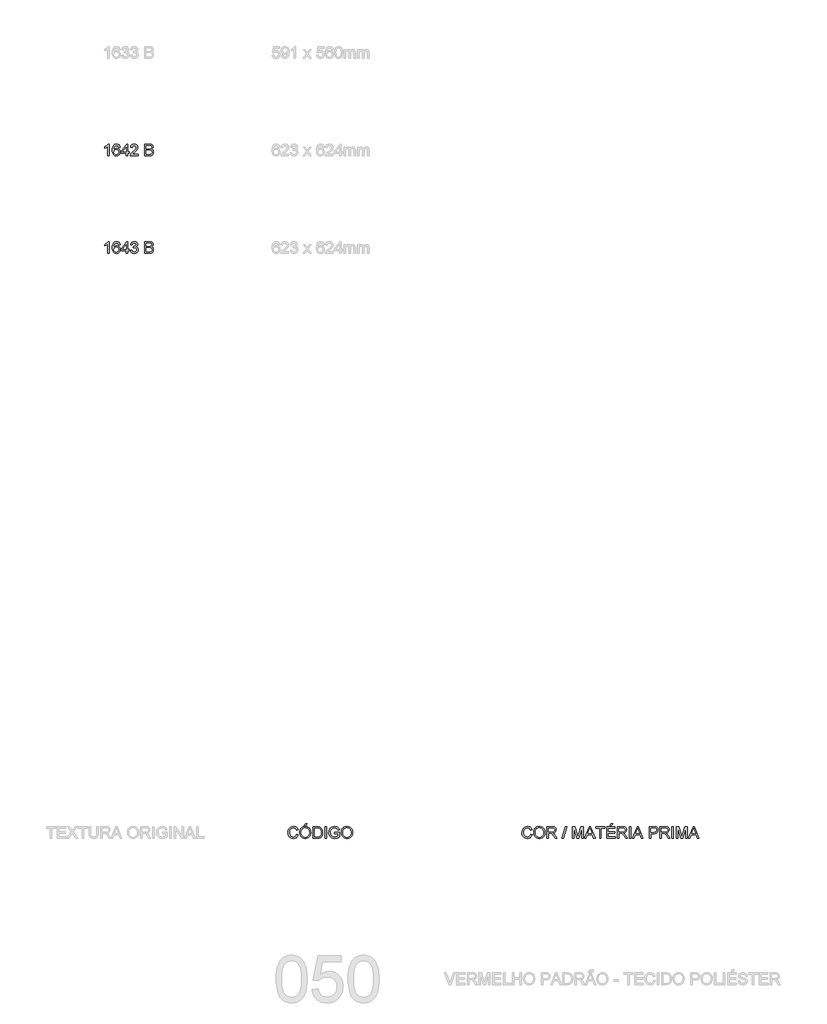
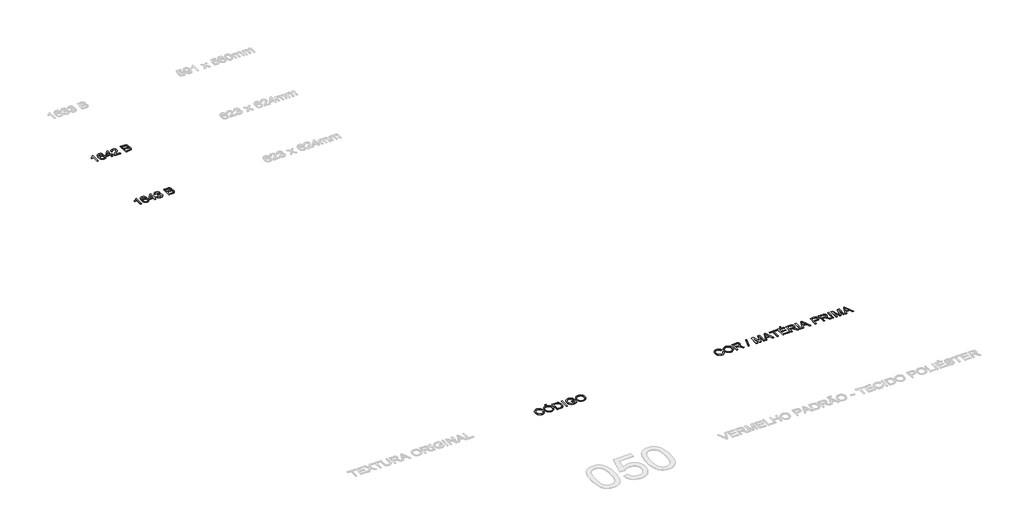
# One storey, part 26 of 39: 4 proxies.
"""IFC4 building model written with IfcOpenShell, lengths in millimetres."""

from ifc_helpers import new_model, si_unit, origin, origin_with_axes, place, context, project, spatial, polyline, outline, extrude, element, save

model = new_model("IFC4")

# Units and contexts
model_context = context("Model", 3, world=origin())
ifc_project = project(units=[si_unit("LENGTHUNIT", "METRE", prefix="MILLI")], contexts=[model_context])

# Site, building, storey
site = spatial("IfcSite", under=ifc_project)
building = spatial("IfcBuilding", under=site)
storey = spatial("IfcBuildingStorey", under=building, Name="Marelli - Linha PROFIT - Planta Baixa", Elevation=0.0)

# Proxies
placement = place(None, origin())
element("IfcBuildingElementProxy", 1, Name="300mm Arial", ObjectType="300mm Arial", at=placement, inside=storey, context=model_context, shape_type="SweptSolid", body=[
    extrude(outline(polyline([(-29517.1779543, -13280.5663201), (-29554.8490706, -13280.5663201), (-29554.8490706, -13045.7104543), (-29590.5336241, -13071.1311002), (-29630.1913032, -13090.1505994), (-29630.1913032, -13054.5396222), (-29600.6043938, -13038.4447849), (-29574.9722158, -13019.2965271), (-29554.7662972, -12998.9342587), (-29541.458166, -12979.1973896), (-29517.1779543, -12979.1973896), (-29517.1779543, -13280.5663201)])), origin_with_axes(), (0.0, 0.0, 1.0), 10.0),
    extrude(outline(polyline([(-29234.644582, -13059.2485118), (-29272.3156983, -13063.9574013), (-29278.3857512, -13045.2873901), (-29286.5895197, -13032.5402789), (-29303.6776384, -13020.7864492), (-29324.3342124, -13016.8685059), (-29341.8453954, -13019.1493743), (-29358.3265088, -13025.9919794), (-29372.4807686, -13040.4037566), (-29384.0414603, -13060.2417932), (-29391.8497556, -13088.3019923), (-29394.7468263, -13127.3802573), (-29379.6360734, -13109.7495127), (-29361.5270821, -13097.3242983), (-29341.4315282, -13089.9574613), (-29320.3610869, -13087.501849), (-29302.2612927, -13089.1803106), (-29285.5594501, -13094.2156954), (-29270.2555591, -13102.6080034), (-29256.3496197, -13114.3572346), (-29244.7935266, -13128.7644133), (-29236.5391743, -13145.1305635), (-29231.5865629, -13163.4556854), (-29229.9356925, -13183.7397789), (-29233.0442953, -13210.7147262), (-29242.3701039, -13235.7215049), (-29257.140566, -13256.9299019), (-29276.5831295, -13272.5097044), (-29299.8148775, -13282.0838333), (-29325.9528932, -13285.2752096), (-29348.4097898, -13283.1598881), (-29368.691584, -13276.8139237), (-29386.798276, -13266.2373164), (-29402.7298656, -13251.4300661), (-29415.7183993, -13231.7667734), (-29424.9959234, -13206.622039), (-29430.5624378, -13175.9958629), (-29432.4179426, -13139.8882451), (-29430.3578034, -13099.4074301), (-29424.1773859, -13064.8587122), (-29413.8766901, -13036.2420915), (-29399.4557159, -13013.557568), (-29383.8253296, -12998.5249899), (-29365.7025428, -12987.7874342), (-29345.0873555, -12981.3449008), (-29321.9797677, -12979.1973896), (-29288.9255704, -12984.5132844), (-29262.4564608, -13000.4609689), (-29243.9152083, -13025.7896443), (-29234.644582, -13059.2485118)]), holes=[polyline([(-29394.7468263, -13183.1511677), (-29392.5671255, -13199.8438133), (-29386.028023, -13215.7823007), (-29375.87448, -13229.485905), (-29362.8514573, -13239.4739012), (-29347.1336991, -13245.5715453), (-29328.8959492, -13247.6040933), (-29304.0363234, -13243.3918445), (-29284.4925924, -13230.7550979), (-29271.8282547, -13210.8894702), (-29267.6068088, -13184.9905777), (-29271.7730724, -13160.1309519), (-29284.2718632, -13141.1758321), (-29304.146688, -13129.173682), (-29330.4410536, -13125.1729653), (-29355.2638912, -13129.173682), (-29376.0216328, -13141.1758321), (-29390.0655279, -13159.6710994), (-29394.7468263, -13183.1511677)])]), origin_with_axes(), (0.0, 0.0, 1.0), 10.0),
    extrude(outline(polyline([(-29074.5423377, -13280.5663201), (-29074.5423377, -13209.932977), (-29211.1001343, -13209.932977), (-29211.1001343, -13172.2618607), (-29065.1245586, -12983.9062792), (-29036.8712214, -12983.9062792), (-29036.8712214, -13172.2618607), (-28999.2001051, -13172.2618607), (-28999.2001051, -13209.932977), (-29036.8712214, -13209.932977), (-29036.8712214, -13280.5663201), (-29074.5423377, -13280.5663201)]), holes=[polyline([(-29074.5423377, -13172.2618607), (-29074.5423377, -13055.8639974), (-29164.7470029, -13172.2618607), (-29074.5423377, -13172.2618607)])]), origin_with_axes(), (0.0, 0.0, 1.0), 10.0),
    extrude(outline(polyline([(-28773.1734073, -13242.8952038), (-28773.1734073, -13280.5663201), (-28970.9467679, -13280.5663201), (-28966.9000659, -13254.5938512), (-28957.6110455, -13234.2959621), (-28944.0178058, -13214.6050783), (-28924.3545132, -13193.9944896), (-28896.855334, -13170.9374855), (-28856.2043736, -13134.8298677), (-28831.8137973, -13108.1768171), (-28819.6185092, -13086.5453558), (-28815.5534131, -13065.5025057), (-28819.3885829, -13046.6393564), (-28830.8940923, -13030.9583863), (-28848.5800192, -13020.390976), (-28870.9564416, -13016.8685059), (-28894.454904, -13020.3082026), (-28912.711048, -13030.6272925), (-28924.4924689, -13047.0164354), (-28928.566762, -13068.6662908), (-28966.2378783, -13063.9574013), (-28957.1052078, -13027.5186897), (-28948.5588492, -13012.9827524), (-28937.3591417, -13000.9024273), (-28923.7636027, -12991.4064733), (-28908.0297496, -12984.623649), (-28870.1471012, -12979.1973896), (-28849.9572774, -12980.7057058), (-28831.9885412, -12985.2306543), (-28816.2408926, -12992.7722352), (-28802.7143315, -13003.3304485), (-28791.8503163, -13016.1235449), (-28784.0903055, -13030.3697751), (-28779.434299, -13046.0691393), (-28777.8822968, -13063.2216373), (-28779.5561599, -13081.238658), (-28784.5777491, -13098.942979), (-28793.4896904, -13116.9508027), (-28806.8346098, -13135.8783314), (-28828.1073862, -13158.4754829), (-28860.8028985, -13187.4921753), (-28904.1393975, -13223.7285518), (-28921.1355457, -13242.8952038), (-28773.1734073, -13242.8952038)])), origin_with_axes(), (0.0, 0.0, 1.0), 10.0),
    extrude(outline(polyline([(-28603.6533839, -13280.5663201), (-28603.6533839, -12979.1973896), (-28488.6534722, -12979.1973896), (-28457.0248177, -12981.4138786), (-28432.3307387, -12988.0633457), (-28413.4032101, -12999.3113377), (-28399.0742064, -13015.3234015), (-28390.0519004, -13034.1589597), (-28387.0444651, -13053.8774346), (-28389.5736538, -13072.0232141), (-28397.16122, -13089.0837416), (-28409.8623459, -13104.0105535), (-28427.7322138, -13115.7551862), (-28406.385861, -13126.9020107), (-28390.6129205, -13143.8613707), (-28380.8732447, -13165.5112261), (-28377.626686, -13190.7295368), (-28379.8431751, -13211.7447958), (-28386.4926421, -13231.2333445), (-28396.416259, -13247.8064284), (-28408.4551972, -13260.0752929), (-28423.1980682, -13268.9596431), (-28441.233483, -13275.3791839), (-28489.536389, -13280.5663201), (-28603.6533839, -13280.5663201)]), holes=[polyline([(-28565.9822676, -13101.6285176), (-28497.1883345, -13101.6285176), (-28457.0156206, -13098.3911561), (-28442.9533313, -13092.8085468), (-28432.8457735, -13084.4484284), (-28426.7481295, -13073.4395597), (-28424.7155814, -13059.9106994), (-28426.6101737, -13046.7773121), (-28432.2939505, -13035.3361821), (-28441.5093945, -13026.4058467), (-28453.9989882, -13020.8048433), (-28502.4122588, -13016.8685059), (-28565.9822676, -13016.8685059), (-28565.9822676, -13101.6285176)]), polyline([(-28565.9822676, -13242.8952038), (-28488.7270486, -13242.8952038), (-28460.768017, -13241.4236758), (-28437.1132047, -13233.2199073), (-28421.4414317, -13216.4812765), (-28416.8337097, -13204.6538704), (-28415.2978024, -13191.0974188), (-28417.1004241, -13175.3520694), (-28422.5082895, -13161.814012), (-28431.9536597, -13151.2282076), (-28445.8687962, -13144.3396173), (-28465.578074, -13140.5596298), (-28492.4058685, -13139.2996339), (-28565.9822676, -13139.2996339), (-28565.9822676, -13242.8952038)])]), origin_with_axes(), (0.0, 0.0, 1.0), 10.0),
])
element("IfcBuildingElementProxy", 2, Name="300mm Arial", ObjectType="300mm Arial", at=placement, inside=storey, context=model_context, shape_type="SweptSolid", body=[
    extrude(outline(polyline([(-29517.1779543, -15780.5663201), (-29554.8490706, -15780.5663201), (-29554.8490706, -15545.7104543), (-29590.5336241, -15571.1311002), (-29630.1913032, -15590.1505994), (-29630.1913032, -15554.5396222), (-29600.6043938, -15538.4447849), (-29574.9722158, -15519.2965271), (-29554.7662972, -15498.9342587), (-29541.458166, -15479.1973896), (-29517.1779543, -15479.1973896), (-29517.1779543, -15780.5663201)])), origin_with_axes(), (0.0, 0.0, 1.0), 10.0),
    extrude(outline(polyline([(-29234.644582, -15559.2485118), (-29272.3156983, -15563.9574013), (-29278.3857512, -15545.2873901), (-29286.5895197, -15532.5402789), (-29303.6776384, -15520.7864492), (-29324.3342124, -15516.8685059), (-29341.8453954, -15519.1493743), (-29358.3265088, -15525.9919794), (-29372.4807686, -15540.4037566), (-29384.0414603, -15560.2417932), (-29391.8497556, -15588.3019923), (-29394.7468263, -15627.3802573), (-29379.6360734, -15609.7495127), (-29361.5270821, -15597.3242983), (-29341.4315282, -15589.9574613), (-29320.3610869, -15587.501849), (-29302.2612927, -15589.1803106), (-29285.5594501, -15594.2156954), (-29270.2555591, -15602.6080034), (-29256.3496197, -15614.3572346), (-29244.7935266, -15628.7644133), (-29236.5391743, -15645.1305635), (-29231.5865629, -15663.4556854), (-29229.9356925, -15683.7397789), (-29233.0442953, -15710.7147262), (-29242.3701039, -15735.7215049), (-29257.140566, -15756.9299019), (-29276.5831295, -15772.5097044), (-29299.8148775, -15782.0838333), (-29325.9528932, -15785.2752096), (-29348.4097898, -15783.1598881), (-29368.691584, -15776.8139237), (-29386.798276, -15766.2373164), (-29402.7298656, -15751.4300661), (-29415.7183993, -15731.7667734), (-29424.9959234, -15706.622039), (-29430.5624378, -15675.9958629), (-29432.4179426, -15639.8882451), (-29430.3578034, -15599.4074301), (-29424.1773859, -15564.8587122), (-29413.8766901, -15536.2420915), (-29399.4557159, -15513.557568), (-29383.8253296, -15498.5249899), (-29365.7025428, -15487.7874342), (-29345.0873555, -15481.3449008), (-29321.9797677, -15479.1973896), (-29288.9255704, -15484.5132844), (-29262.4564608, -15500.4609689), (-29243.9152083, -15525.7896443), (-29234.644582, -15559.2485118)]), holes=[polyline([(-29394.7468263, -15683.1511677), (-29392.5671255, -15699.8438133), (-29386.028023, -15715.7823007), (-29375.87448, -15729.485905), (-29362.8514573, -15739.4739012), (-29347.1336991, -15745.5715453), (-29328.8959492, -15747.6040933), (-29304.0363234, -15743.3918445), (-29284.4925924, -15730.7550979), (-29271.8282547, -15710.8894702), (-29267.6068088, -15684.9905777), (-29271.7730724, -15660.1309519), (-29284.2718632, -15641.1758321), (-29304.146688, -15629.173682), (-29330.4410536, -15625.1729653), (-29355.2638912, -15629.173682), (-29376.0216328, -15641.1758321), (-29390.0655279, -15659.6710994), (-29394.7468263, -15683.1511677)])]), origin_with_axes(), (0.0, 0.0, 1.0), 10.0),
    extrude(outline(polyline([(-29074.5423377, -15780.5663201), (-29074.5423377, -15709.932977), (-29211.1001343, -15709.932977), (-29211.1001343, -15672.2618607), (-29065.1245586, -15483.9062792), (-29036.8712214, -15483.9062792), (-29036.8712214, -15672.2618607), (-28999.2001051, -15672.2618607), (-28999.2001051, -15709.932977), (-29036.8712214, -15709.932977), (-29036.8712214, -15780.5663201), (-29074.5423377, -15780.5663201)]), holes=[polyline([(-29074.5423377, -15672.2618607), (-29074.5423377, -15555.8639974), (-29164.7470029, -15672.2618607), (-29074.5423377, -15672.2618607)])]), origin_with_axes(), (0.0, 0.0, 1.0), 10.0),
    extrude(outline(polyline([(-28966.2378783, -15700.5151979), (-28928.566762, -15695.8063084), (-28920.1330673, -15719.4795148), (-28907.7814293, -15735.4639875), (-28890.9048428, -15744.5690668), (-28868.8963024, -15747.6040933), (-28843.0709863, -15743.4286327), (-28823.1317822, -15730.9022507), (-28810.3846711, -15712.2138454), (-28806.135634, -15689.5523145), (-28810.3478829, -15668.0404148), (-28822.9846294, -15650.5936112), (-28842.1144932, -15639.0329195), (-28865.8060936, -15635.1793556), (-28892.2200209, -15639.2996339), (-28888.0261662, -15601.6285176), (-28881.9929014, -15602.069976), (-28859.423341, -15599.3660433), (-28839.2450136, -15591.2542454), (-28825.0079804, -15577.5322469), (-28820.2623026, -15557.997713), (-28823.7019993, -15541.7281317), (-28834.0210893, -15528.5303652), (-28849.7664387, -15519.7839707), (-28869.4849136, -15516.8685059), (-28889.2401767, -15519.8115619), (-28905.3901963, -15528.6407298), (-28917.1808143, -15543.3560096), (-28923.8578725, -15563.9574013), (-28961.5289888, -15559.2485118), (-28950.4373466, -15525.4217623), (-28930.7004776, -15500.1666633), (-28903.6979392, -15484.4397081), (-28870.8092888, -15479.1973896), (-28847.1268853, -15481.7817606), (-28825.3758624, -15489.5348737), (-28807.0369449, -15501.76695), (-28793.590858, -15517.7882109), (-28785.3411043, -15536.24669), (-28782.5911863, -15555.790421), (-28785.2031485, -15574.0005798), (-28793.039035, -15590.5184814), (-28805.9884812, -15604.5899677), (-28823.9411226, -15615.4608806), (-28800.3598867, -15624.9890243), (-28782.8854919, -15641.2126203), (-28772.0697613, -15663.2487518), (-28768.4645177, -15690.2145021), (-28770.2671395, -15709.3259717), (-28775.6750048, -15726.9291252), (-28784.6881137, -15743.0239625), (-28797.3064661, -15757.6104836), (-28812.679335, -15769.7138012), (-28829.9559932, -15778.3590281), (-28849.1364407, -15783.5461642), (-28870.2206776, -15785.2752096), (-28889.2769649, -15783.7990831), (-28906.6409951, -15779.3707036), (-28922.3127681, -15771.9900711), (-28936.2922839, -15761.6571855), (-28948.013924, -15748.9790523), (-28956.9120698, -15734.5626766), (-28962.9867212, -15718.4080585), (-28966.2378783, -15700.5151979)])), origin_with_axes(), (0.0, 0.0, 1.0), 10.0),
    extrude(outline(polyline([(-28603.6533839, -15780.5663201), (-28603.6533839, -15479.1973896), (-28488.6534722, -15479.1973896), (-28457.0248177, -15481.4138786), (-28432.3307387, -15488.0633457), (-28413.4032101, -15499.3113377), (-28399.0742064, -15515.3234015), (-28390.0519004, -15534.1589597), (-28387.0444651, -15553.8774346), (-28389.5736538, -15572.0232141), (-28397.16122, -15589.0837416), (-28409.8623459, -15604.0105535), (-28427.7322138, -15615.7551862), (-28406.385861, -15626.9020107), (-28390.6129205, -15643.8613707), (-28380.8732447, -15665.5112261), (-28377.626686, -15690.7295368), (-28379.8431751, -15711.7447958), (-28386.4926421, -15731.2333445), (-28396.416259, -15747.8064284), (-28408.4551972, -15760.0752929), (-28423.1980682, -15768.9596431), (-28441.233483, -15775.3791839), (-28489.536389, -15780.5663201), (-28603.6533839, -15780.5663201)]), holes=[polyline([(-28565.9822676, -15601.6285176), (-28497.1883345, -15601.6285176), (-28457.0156206, -15598.3911561), (-28442.9533313, -15592.8085468), (-28432.8457735, -15584.4484284), (-28426.7481295, -15573.4395597), (-28424.7155814, -15559.9106994), (-28426.6101737, -15546.7773121), (-28432.2939505, -15535.3361821), (-28441.5093945, -15526.4058467), (-28453.9989882, -15520.8048433), (-28502.4122588, -15516.8685059), (-28565.9822676, -15516.8685059), (-28565.9822676, -15601.6285176)]), polyline([(-28565.9822676, -15742.8952038), (-28488.7270486, -15742.8952038), (-28460.768017, -15741.4236758), (-28437.1132047, -15733.2199073), (-28421.4414317, -15716.4812765), (-28416.8337097, -15704.6538704), (-28415.2978024, -15691.0974188), (-28417.1004241, -15675.3520694), (-28422.5082895, -15661.814012), (-28431.9536597, -15651.2282076), (-28445.8687962, -15644.3396173), (-28465.578074, -15640.5596298), (-28492.4058685, -15639.2996339), (-28565.9822676, -15639.2996339), (-28565.9822676, -15742.8952038)])]), origin_with_axes(), (0.0, 0.0, 1.0), 10.0),
])
element("IfcBuildingElementProxy", 3, Name="300mm Arial", ObjectType="300mm Arial", at=placement, inside=storey, context=model_context, shape_type="SweptSolid", body=[
    extrude(outline(polyline([(-24700.8246463, -30673.4390831), (-24663.15353, -30683.1511677), (-24670.6077389, -30706.5783531), (-24680.5359543, -30727.0486868), (-24692.938176, -30744.5621691), (-24707.8144042, -30759.1187997), (-24724.8289465, -30770.5622291), (-24743.6461105, -30778.7361071), (-24764.2658964, -30783.640434), (-24786.688304, -30785.2752096), (-24830.383488, -30780.3271968), (-24865.0839571, -30765.4831583), (-24891.6818254, -30741.2581289), (-24911.0692065, -30708.1671434), (-24922.9058097, -30669.2636224), (-24926.8513441, -30627.6009865), (-24922.3907749, -30583.6574821), (-24909.0090674, -30545.7104543), (-24887.4051972, -30514.9647166), (-24858.2781402, -30492.6250824), (-24823.7340209, -30479.0226457), (-24785.8789636, -30474.4885001), (-24744.5750126, -30480.3562179), (-24726.6062764, -30487.6908652), (-24710.4263664, -30497.9593714), (-24696.301997, -30510.8904235), (-24684.4998828, -30526.2127086), (-24667.8624195, -30564.0309777), (-24705.5335358, -30573.0072984), (-24718.5933467, -30545.5357104), (-24736.4356234, -30526.6909552), (-24759.2810953, -30515.7924511), (-24787.3504916, -30512.1596164), (-24819.705713, -30516.1879242), (-24846.2851872, -30528.2728478), (-24866.4543176, -30547.1451941), (-24879.5785078, -30571.5357704), (-24886.7797978, -30599.1085259), (-24889.1802278, -30627.5274101), (-24886.3383394, -30662.3290468), (-24877.8126742, -30692.421794), (-24863.2813354, -30716.6560205), (-24842.4224262, -30733.8820949), (-24817.4156476, -30744.1735937), (-24790.4407003, -30747.6040933), (-24758.9959868, -30742.931992), (-24732.7935917, -30728.9156879), (-24713.0107374, -30705.702334), (-24700.8246463, -30673.4390831)])), origin_with_axes(), (0.0, 0.0, 1.0), 10.0),
    extrude(outline(polyline([(-24625.4824137, -30633.8549804), (-24622.9716191, -30598.5061192), (-24615.4392352, -30567.213157), (-24602.8852621, -30539.9760937), (-24585.3096998, -30516.7949295), (-24563.7656105, -30498.2858666), (-24539.3060563, -30485.0651074), (-24511.9310374, -30477.1326519), (-24481.6405536, -30474.4885001), (-24442.1116332, -30479.454907), (-24406.666203, -30494.3541278), (-24377.2356433, -30518.1376988), (-24355.7513348, -30549.7571563), (-24342.6179476, -30587.68579), (-24338.2401519, -30630.3968896), (-24342.8478738, -30673.6782064), (-24356.6710398, -30712.140269), (-24378.9462946, -30743.8149087), (-24408.9102831, -30766.733957), (-24444.0522107, -30780.6398965), (-24481.8612828, -30785.2752096), (-24521.9972084, -30780.1524528), (-24557.6449738, -30764.7841825), (-24587.001957, -30740.5591531), (-24608.2655363, -30708.8661192), (-24621.1781943, -30672.3998164), (-24625.4824137, -30633.8549804)]), holes=[polyline([(-24587.8112974, -30634.2228624), (-24585.9282014, -30659.1974513), (-24580.2789135, -30681.3669401), (-24570.8634337, -30700.7313286), (-24557.681762, -30717.2906169), (-24541.6582018, -30730.5527628), (-24523.7170568, -30740.0257242), (-24503.8583268, -30745.709501), (-24482.082012, -30747.6040933), (-24459.9332166, -30745.6911069), (-24439.8399619, -30739.9521478), (-24421.8022478, -30730.3872159), (-24405.8200744, -30716.9963113), (-24392.7349717, -30700.0875351), (-24383.3884697, -30679.9689885), (-24377.7805685, -30656.6406715), (-24375.9112682, -30630.102584), (-24379.1118415, -30596.7540812), (-24388.7135616, -30567.9305269), (-24404.468108, -30544.358488), (-24426.1271605, -30526.7645316), (-24452.2559792, -30515.8108452), (-24481.4198244, -30512.1596164), (-24502.4396819, -30513.9185522), (-24521.9420261, -30519.1953595), (-24539.9268572, -30527.9900385), (-24556.394175, -30540.302589), (-24570.139166, -30556.7262208), (-24579.9570168, -30577.8541437), (-24585.8477272, -30603.6863575), (-24587.8112974, -30634.2228624)])]), origin_with_axes(), (0.0, 0.0, 1.0), 10.0),
    extrude(outline(polyline([(-24507.7601752, -30460.3618315), (-24479.506838, -30403.855157), (-24432.4179426, -30403.855157), (-24479.506838, -30460.3618315), (-24507.7601752, -30460.3618315)])), origin_with_axes(), (0.0, 0.0, 1.0), 10.0),
    extrude(outline(polyline([(-24286.4423669, -30780.5663201), (-24286.4423669, -30479.1973896), (-24182.4789151, -30479.1973896), (-24128.6945674, -30483.5383972), (-24104.6718731, -30491.9077126), (-24084.4015752, -30505.0962821), (-24063.5610602, -30528.0521186), (-24048.7170217, -30556.5997614), (-24039.8326715, -30590.1873876), (-24036.8712214, -30628.2631741), (-24038.8761783, -30660.6091985), (-24044.8910489, -30689.0740679), (-24054.0513106, -30713.3082943), (-24065.4924406, -30732.9623899), (-24078.6626161, -30748.477813), (-24093.0100139, -30760.2960221), (-24109.4819302, -30769.0608107), (-24129.0256612, -30775.4159721), (-24177.47572, -30780.5663201), (-24286.4423669, -30780.5663201)]), holes=[polyline([(-24248.7712506, -30742.8952038), (-24182.1110331, -30742.8952038), (-24154.5382776, -30741.5340404), (-24133.6241861, -30737.4505502), (-24117.8420485, -30730.8838566), (-24105.6651545, -30722.0730828), (-24092.5777525, -30705.7667134), (-24082.7461062, -30684.6594839), (-24076.5932798, -30658.6594239), (-24074.5423377, -30627.6745629), (-24078.5614485, -30586.6189322), (-24090.6187809, -30556.3054558), (-24108.4334665, -30535.4833349), (-24129.724637, -30522.9017706), (-24151.3928865, -30518.3768221), (-24183.1411027, -30516.8685059), (-24248.7712506, -30516.8685059), (-24248.7712506, -30742.8952038)])]), origin_with_axes(), (0.0, 0.0, 1.0), 10.0),
    extrude(outline(polyline([(-23980.3645469, -30780.5663201), (-23980.3645469, -30479.1973896), (-23942.6934306, -30479.1973896), (-23942.6934306, -30780.5663201), (-23980.3645469, -30780.5663201)])), origin_with_axes(), (0.0, 0.0, 1.0), 10.0),
    extrude(outline(polyline([(-23726.0845119, -30662.8440816), (-23726.0845119, -30625.1729653), (-23603.6533839, -30625.1729653), (-23603.6533839, -30737.8184322), (-23633.4058402, -30758.5117945), (-23664.0963957, -30773.355833), (-23695.6514738, -30782.2953654), (-23727.9974983, -30785.2752096), (-23770.2579425, -30780.5387289), (-23808.4532906, -30766.3292869), (-23840.1831127, -30743.1435241), (-23863.0469787, -30711.4780814), (-23876.8701447, -30673.4942654), (-23881.4778666, -30631.3533828), (-23876.8885388, -30588.9089976), (-23863.1205551, -30549.4260625), (-23840.7441327, -30516.3074859), (-23810.3294888, -30492.9561762), (-23773.2837719, -30479.1054191), (-23731.0141306, -30474.4885001), (-23699.9832843, -30477.1648416), (-23672.079435, -30485.1938661), (-23648.5809725, -30497.9961596), (-23630.7662869, -30514.9923077), (-23617.5869145, -30537.0008481), (-23607.9943914, -30564.8403181), (-23642.7224518, -30574.6259792), (-23650.4755648, -30554.7695485), (-23659.9025409, -30539.7875542), (-23672.3737406, -30528.493577), (-23689.2595242, -30519.7011973), (-23709.3918663, -30514.0450116), (-23731.6027418, -30512.1596164), (-23757.6028018, -30514.1921644), (-23779.8320714, -30520.2898085), (-23798.207777, -30529.6891935), (-23812.6471453, -30541.6269642), (-23832.0345265, -30570.6528536), (-23840.8636944, -30599.0901318), (-23843.8067503, -30629.8082784), (-23840.2658861, -30665.8331228), (-23829.6432935, -30695.4752146), (-23812.2608693, -30718.5230216), (-23788.4405101, -30734.7650117), (-23760.5642519, -30744.3943229), (-23731.0141306, -30747.6040933), (-23704.9221001, -30745.1852692), (-23679.4738631, -30737.9287968), (-23657.3733522, -30727.9316036), (-23641.3245002, -30717.2906169), (-23641.3245002, -30662.8440816), (-23726.0845119, -30662.8440816)])), origin_with_axes(), (0.0, 0.0, 1.0), 10.0),
    extrude(outline(polyline([(-23556.5644885, -30633.8549804), (-23554.0536939, -30598.5061192), (-23546.52131, -30567.213157), (-23533.9673369, -30539.9760937), (-23516.3917746, -30516.7949295), (-23494.8476853, -30498.2858666), (-23470.3881311, -30485.0651074), (-23443.0131122, -30477.1326519), (-23412.7226284, -30474.4885001), (-23373.193708, -30479.454907), (-23337.7482778, -30494.3541278), (-23308.3177182, -30518.1376988), (-23286.8334096, -30549.7571563), (-23273.7000224, -30587.68579), (-23269.3222267, -30630.3968896), (-23273.9299487, -30673.6782064), (-23287.7531146, -30712.140269), (-23310.0283694, -30743.8149087), (-23339.9923579, -30766.733957), (-23375.1342855, -30780.6398965), (-23412.9433576, -30785.2752096), (-23453.0792833, -30780.1524528), (-23488.7270486, -30764.7841825), (-23518.0840318, -30740.5591531), (-23539.3476111, -30708.8661192), (-23552.2602692, -30672.3998164), (-23556.5644885, -30633.8549804)]), holes=[polyline([(-23518.8933722, -30634.2228624), (-23517.0102762, -30659.1974513), (-23511.3609883, -30681.3669401), (-23501.9455085, -30700.7313286), (-23488.7638368, -30717.2906169), (-23472.7402766, -30730.5527628), (-23454.7991316, -30740.0257242), (-23434.9404016, -30745.709501), (-23413.1640868, -30747.6040933), (-23391.0152914, -30745.6911069), (-23370.9220367, -30739.9521478), (-23352.8843226, -30730.3872159), (-23336.9021492, -30716.9963113), (-23323.8170465, -30700.0875351), (-23314.4705445, -30679.9689885), (-23308.8626434, -30656.6406715), (-23306.993343, -30630.102584), (-23310.1939163, -30596.7540812), (-23319.7956364, -30567.9305269), (-23335.5501829, -30544.358488), (-23357.2092353, -30526.7645316), (-23383.338054, -30515.8108452), (-23412.5018992, -30512.1596164), (-23433.5217567, -30513.9185522), (-23453.024101, -30519.1953595), (-23471.008932, -30527.9900385), (-23487.4762498, -30540.302589), (-23501.2212409, -30556.7262208), (-23511.0390916, -30577.8541437), (-23516.929802, -30603.6863575), (-23518.8933722, -30634.2228624)])]), origin_with_axes(), (0.0, 0.0, 1.0), 10.0),
])
element("IfcBuildingElementProxy", 4, Name="300mm Arial", ObjectType="300mm Arial", at=placement, inside=storey, context=model_context, shape_type="SweptSolid", body=[
    extrude(outline(polyline([(-18695.8970747, -30673.4390831), (-18658.2259584, -30683.1511677), (-18665.6801673, -30706.5783531), (-18675.6083827, -30727.0486868), (-18688.0106044, -30744.5621691), (-18702.8868326, -30759.1187997), (-18719.9013749, -30770.5622291), (-18738.7185389, -30778.7361071), (-18759.3383248, -30783.640434), (-18781.7607324, -30785.2752096), (-18825.4559164, -30780.3271968), (-18860.1563855, -30765.4831583), (-18886.7542538, -30741.2581289), (-18906.1416349, -30708.1671434), (-18917.9782381, -30669.2636224), (-18921.9237725, -30627.6009865), (-18917.4632033, -30583.6574821), (-18904.0814958, -30545.7104543), (-18882.4776256, -30514.9647166), (-18853.3505686, -30492.6250824), (-18818.8064493, -30479.0226457), (-18780.951392, -30474.4885001), (-18739.647441, -30480.3562179), (-18721.6787048, -30487.6908652), (-18705.4987948, -30497.9593714), (-18691.3744254, -30510.8904235), (-18679.5723112, -30526.2127086), (-18662.9348479, -30564.0309777), (-18700.6059642, -30573.0072984), (-18713.6657751, -30545.5357104), (-18731.5080518, -30526.6909552), (-18754.3535237, -30515.7924511), (-18782.42292, -30512.1596164), (-18814.7781414, -30516.1879242), (-18841.3576156, -30528.2728478), (-18861.526746, -30547.1451941), (-18874.6509362, -30571.5357704), (-18881.8522262, -30599.1085259), (-18884.2526562, -30627.5274101), (-18881.4107678, -30662.3290468), (-18872.8851026, -30692.421794), (-18858.3537638, -30716.6560205), (-18837.4948546, -30733.8820949), (-18812.488076, -30744.1735937), (-18785.5131287, -30747.6040933), (-18754.0684152, -30742.931992), (-18727.8660201, -30728.9156879), (-18708.0831658, -30705.702334), (-18695.8970747, -30673.4390831)])), origin_with_axes(), (0.0, 0.0, 1.0), 10.0),
    extrude(outline(polyline([(-18620.5548421, -30633.8549804), (-18618.0440475, -30598.5061192), (-18610.5116636, -30567.213157), (-18597.9576905, -30539.9760937), (-18580.3821282, -30516.7949295), (-18558.8380389, -30498.2858666), (-18534.3784847, -30485.0651074), (-18507.0034658, -30477.1326519), (-18476.712982, -30474.4885001), (-18437.1840616, -30479.454907), (-18401.7386314, -30494.3541278), (-18372.3080717, -30518.1376988), (-18350.8237632, -30549.7571563), (-18337.690376, -30587.68579), (-18333.3125803, -30630.3968896), (-18337.9203022, -30673.6782064), (-18351.7434682, -30712.140269), (-18374.018723, -30743.8149087), (-18403.9827115, -30766.733957), (-18439.1246391, -30780.6398965), (-18476.9337112, -30785.2752096), (-18517.0696368, -30780.1524528), (-18552.7174022, -30764.7841825), (-18582.0743854, -30740.5591531), (-18603.3379647, -30708.8661192), (-18616.2506227, -30672.3998164), (-18620.5548421, -30633.8549804)]), holes=[polyline([(-18582.8837258, -30634.2228624), (-18581.0006298, -30659.1974513), (-18575.3513419, -30681.3669401), (-18565.9358621, -30700.7313286), (-18552.7541904, -30717.2906169), (-18536.7306302, -30730.5527628), (-18518.7894852, -30740.0257242), (-18498.9307552, -30745.709501), (-18477.1544404, -30747.6040933), (-18455.005645, -30745.6911069), (-18434.9123903, -30739.9521478), (-18416.8746762, -30730.3872159), (-18400.8925028, -30716.9963113), (-18387.8074001, -30700.0875351), (-18378.4608981, -30679.9689885), (-18372.8529969, -30656.6406715), (-18370.9836966, -30630.102584), (-18374.1842699, -30596.7540812), (-18383.78599, -30567.9305269), (-18399.5405364, -30544.358488), (-18421.1995889, -30526.7645316), (-18447.3284076, -30515.8108452), (-18476.4922528, -30512.1596164), (-18497.5121103, -30513.9185522), (-18517.0144545, -30519.1953595), (-18534.9992856, -30527.9900385), (-18551.4666034, -30540.302589), (-18565.2115944, -30556.7262208), (-18575.0294452, -30577.8541437), (-18580.9201556, -30603.6863575), (-18582.8837258, -30634.2228624)])]), origin_with_axes(), (0.0, 0.0, 1.0), 10.0),
    extrude(outline(polyline([(-18281.5147953, -30780.5663201), (-18281.5147953, -30479.1973896), (-18151.652451, -30479.1973896), (-18116.7496467, -30481.2299376), (-18091.356592, -30487.3275817), (-18072.7969454, -30498.5847708), (-18058.3943653, -30516.0959537), (-18049.1513301, -30537.8101885), (-18046.0703184, -30561.6765329), (-18051.1746811, -30591.3646099), (-18066.4877692, -30615.9759154), (-18078.0875483, -30626.0052983), (-18092.4694351, -30634.0205273), (-18129.5795313, -30644.0085235), (-18108.1687992, -30660.1217548), (-18077.6345936, -30698.8965171), (-18027.3819131, -30780.5663201), (-18071.1598705, -30780.5663201), (-18110.3760912, -30718.0999573), (-18138.7030048, -30676.750021), (-18158.6054207, -30657.2154871), (-18176.5212739, -30650.0417882), (-18198.3734644, -30648.717413), (-18243.843679, -30648.717413), (-18243.843679, -30780.5663201), (-18281.5147953, -30780.5663201)]), holes=[polyline([(-18243.843679, -30611.0462967), (-18159.5251257, -30611.0462967), (-18135.3092934, -30609.7127245), (-18116.5197205, -30605.7120078), (-18102.3746578, -30598.7774322), (-18092.092356, -30588.6422832), (-18085.829165, -30576.3826157), (-18083.7414347, -30563.0744845), (-18087.7237573, -30544.6987789), (-18099.6707251, -30529.8915286), (-18120.2261316, -30520.1242616), (-18150.0337703, -30516.8685059), (-18243.843679, -30516.8685059), (-18243.843679, -30611.0462967)])]), origin_with_axes(), (0.0, 0.0, 1.0), 10.0),
    extrude(outline(polyline([(-17895.3858532, -30780.5663201), (-17810.6258415, -30479.1973896), (-17776.6335452, -30479.1973896), (-17861.3935568, -30780.5663201), (-17895.3858532, -30780.5663201)])), origin_with_axes(), (0.0, 0.0, 1.0), 10.0),
    extrude(outline(polyline([(-17626.9791495, -30780.5663201), (-17626.9791495, -30479.1973896), (-17562.158342, -30479.1973896), (-17500.5013196, -30691.6124536), (-17488.0669081, -30735.9790223), (-17474.6024271, -30687.9336337), (-17413.9754743, -30479.1973896), (-17349.1546668, -30479.1973896), (-17349.1546668, -30780.5663201), (-17386.8257831, -30780.5663201), (-17386.8257831, -30516.8685059), (-17462.5358977, -30780.5663201), (-17513.5979186, -30780.5663201), (-17589.3080332, -30516.8685059), (-17589.3080332, -30780.5663201), (-17626.9791495, -30780.5663201)])), origin_with_axes(), (0.0, 0.0, 1.0), 10.0),
    extrude(outline(polyline([(-17318.3261556, -30780.5663201), (-17198.0287431, -30479.1973896), (-17165.9494332, -30479.1973896), (-17045.6520207, -30780.5663201), (-17085.4568526, -30780.5663201), (-17119.9641838, -30686.3885293), (-17244.0875689, -30686.3885293), (-17278.5213237, -30780.5663201), (-17318.3261556, -30780.5663201)]), holes=[polyline([(-17230.2552059, -30648.717413), (-17133.7229704, -30648.717413), (-17160.8726616, -30574.6259792), (-17181.9890881, -30516.8685059), (-17200.7510699, -30568.1512561), (-17230.2552059, -30648.717413)])]), origin_with_axes(), (0.0, 0.0, 1.0), 10.0),
    extrude(outline(polyline([(-16930.0634979, -30780.5663201), (-16930.0634979, -30516.8685059), (-17028.9501782, -30516.8685059), (-17028.9501782, -30479.1973896), (-16793.5057012, -30479.1973896), (-16793.5057012, -30516.8685059), (-16892.3923815, -30516.8685059), (-16892.3923815, -30780.5663201), (-16930.0634979, -30780.5663201)])), origin_with_axes(), (0.0, 0.0, 1.0), 10.0),
    extrude(outline(polyline([(-16751.1256954, -30780.5663201), (-16751.1256954, -30479.1973896), (-16534.5167766, -30479.1973896), (-16534.5167766, -30516.8685059), (-16713.4545791, -30516.8685059), (-16713.4545791, -30606.3374072), (-16543.9345557, -30606.3374072), (-16543.9345557, -30644.0085235), (-16713.4545791, -30644.0085235), (-16713.4545791, -30742.8952038), (-16529.8078871, -30742.8952038), (-16529.8078871, -30780.5663201), (-16751.1256954, -30780.5663201)])), origin_with_axes(), (0.0, 0.0, 1.0), 10.0),
    extrude(outline(polyline([(-16666.3656837, -30460.3618315), (-16638.1123465, -30403.855157), (-16591.0234511, -30403.855157), (-16638.1123465, -30460.3618315), (-16666.3656837, -30460.3618315)])), origin_with_axes(), (0.0, 0.0, 1.0), 10.0),
    extrude(outline(polyline([(-16473.3012126, -30780.5663201), (-16473.3012126, -30479.1973896), (-16343.4388683, -30479.1973896), (-16308.536064, -30481.2299376), (-16283.1430093, -30487.3275817), (-16264.5833627, -30498.5847708), (-16250.1807826, -30516.0959537), (-16240.9377474, -30537.8101885), (-16237.8567357, -30561.6765329), (-16242.9610984, -30591.3646099), (-16258.2741865, -30615.9759154), (-16269.8739656, -30626.0052983), (-16284.2558524, -30634.0205273), (-16321.3659486, -30644.0085235), (-16299.9552165, -30660.1217548), (-16269.4210109, -30698.8965171), (-16219.1683304, -30780.5663201), (-16262.9462878, -30780.5663201), (-16302.1625085, -30718.0999573), (-16330.4894221, -30676.750021), (-16350.3918381, -30657.2154871), (-16368.3076912, -30650.0417882), (-16390.1598817, -30648.717413), (-16435.6300963, -30648.717413), (-16435.6300963, -30780.5663201), (-16473.3012126, -30780.5663201)]), holes=[polyline([(-16435.6300963, -30611.0462967), (-16351.311543, -30611.0462967), (-16327.0957107, -30609.7127245), (-16308.3061378, -30605.7120078), (-16294.1610751, -30598.7774322), (-16283.8787733, -30588.6422832), (-16277.6155824, -30576.3826157), (-16275.527852, -30563.0744845), (-16279.5101746, -30544.6987789), (-16291.4571424, -30529.8915286), (-16312.0125489, -30520.1242616), (-16341.8201876, -30516.8685059), (-16435.6300963, -30516.8685059), (-16435.6300963, -30611.0462967)])]), origin_with_axes(), (0.0, 0.0, 1.0), 10.0),
    extrude(outline(polyline([(-16167.2233927, -30780.5663201), (-16167.2233927, -30479.1973896), (-16129.5522763, -30479.1973896), (-16129.5522763, -30780.5663201), (-16167.2233927, -30780.5663201)])), origin_with_axes(), (0.0, 0.0, 1.0), 10.0),
    extrude(outline(polyline([(-16089.3059861, -30780.5663201), (-15969.0085737, -30479.1973896), (-15936.9292637, -30479.1973896), (-15816.6318512, -30780.5663201), (-15856.4366831, -30780.5663201), (-15890.9440143, -30686.3885293), (-16015.0673994, -30686.3885293), (-16049.5011542, -30780.5663201), (-16089.3059861, -30780.5663201)]), holes=[polyline([(-16001.2350364, -30648.717413), (-15904.7028009, -30648.717413), (-15931.8524921, -30574.6259792), (-15952.9689187, -30516.8685059), (-15971.7309004, -30568.1512561), (-16001.2350364, -30648.717413)])]), origin_with_axes(), (0.0, 0.0, 1.0), 10.0),
    extrude(outline(polyline([(-15658.6633225, -30780.5663201), (-15658.6633225, -30479.1973896), (-15546.9743488, -30479.1973896), (-15501.9455926, -30482.0668692), (-15481.8684327, -30487.4287493), (-15465.3413341, -30496.1567496), (-15452.0332029, -30508.6463433), (-15441.6129454, -30525.2930036), (-15434.8807049, -30544.9287051), (-15432.6366247, -30566.3854225), (-15434.1518387, -30584.8852883), (-15438.6974806, -30601.9044291), (-15446.2735504, -30617.4428449), (-15456.8800482, -30631.5005356), (-15471.4412774, -30643.1531978), (-15490.8815416, -30651.476528), (-15515.2008407, -30656.470526), (-15544.3991748, -30658.1351921), (-15620.9922062, -30658.1351921), (-15620.9922062, -30780.5663201), (-15658.6633225, -30780.5663201)]), holes=[polyline([(-15620.9922062, -30620.4640758), (-15542.1918828, -30620.4640758), (-15508.7881977, -30617.005985), (-15486.715278, -30606.6317127), (-15474.4096252, -30589.9850525), (-15470.307741, -30567.7097977), (-15472.7265651, -30550.7872259), (-15479.9830375, -30536.5134045), (-15491.1758472, -30525.7712502), (-15505.4036833, -30519.4436799), (-15543.0747996, -30516.8685059), (-15620.9922062, -30516.8685059), (-15620.9922062, -30620.4640758)])]), origin_with_axes(), (0.0, 0.0, 1.0), 10.0),
    extrude(outline(polyline([(-15380.8388398, -30780.5663201), (-15380.8388398, -30479.1973896), (-15250.9764955, -30479.1973896), (-15216.0736912, -30481.2299376), (-15190.6806365, -30487.3275817), (-15172.1209898, -30498.5847708), (-15157.7184097, -30516.0959537), (-15148.4753746, -30537.8101885), (-15145.3943628, -30561.6765329), (-15150.4987255, -30591.3646099), (-15165.8118136, -30615.9759154), (-15177.4115927, -30626.0052983), (-15191.7934795, -30634.0205273), (-15228.9035758, -30644.0085235), (-15207.4928436, -30660.1217548), (-15176.958638, -30698.8965171), (-15126.7059575, -30780.5663201), (-15170.4839149, -30780.5663201), (-15209.7001356, -30718.0999573), (-15238.0270492, -30676.750021), (-15257.9294652, -30657.2154871), (-15275.8453183, -30650.0417882), (-15297.6975089, -30648.717413), (-15343.1677235, -30648.717413), (-15343.1677235, -30780.5663201), (-15380.8388398, -30780.5663201)]), holes=[polyline([(-15343.1677235, -30611.0462967), (-15258.8491702, -30611.0462967), (-15234.6333378, -30609.7127245), (-15215.8437649, -30605.7120078), (-15201.6987022, -30598.7774322), (-15191.4164004, -30588.6422832), (-15185.1532095, -30576.3826157), (-15183.0654792, -30563.0744845), (-15187.0478018, -30544.6987789), (-15198.9947695, -30529.8915286), (-15219.550176, -30520.1242616), (-15249.3578147, -30516.8685059), (-15343.1677235, -30516.8685059), (-15343.1677235, -30611.0462967)])]), origin_with_axes(), (0.0, 0.0, 1.0), 10.0),
    extrude(outline(polyline([(-15074.7610198, -30780.5663201), (-15074.7610198, -30479.1973896), (-15037.0899035, -30479.1973896), (-15037.0899035, -30780.5663201), (-15074.7610198, -30780.5663201)])), origin_with_axes(), (0.0, 0.0, 1.0), 10.0),
    extrude(outline(polyline([(-14961.7476709, -30780.5663201), (-14961.7476709, -30479.1973896), (-14896.9268633, -30479.1973896), (-14835.2698409, -30691.6124536), (-14822.8354295, -30735.9790223), (-14809.3709485, -30687.9336337), (-14748.7439956, -30479.1973896), (-14683.9231881, -30479.1973896), (-14683.9231881, -30780.5663201), (-14721.5943044, -30780.5663201), (-14721.5943044, -30516.8685059), (-14797.304419, -30780.5663201), (-14848.3664399, -30780.5663201), (-14924.0765546, -30516.8685059), (-14924.0765546, -30780.5663201), (-14961.7476709, -30780.5663201)])), origin_with_axes(), (0.0, 0.0, 1.0), 10.0),
    extrude(outline(polyline([(-14653.0946769, -30780.5663201), (-14532.7972645, -30479.1973896), (-14500.7179545, -30479.1973896), (-14380.4205421, -30780.5663201), (-14420.225374, -30780.5663201), (-14454.7327051, -30686.3885293), (-14578.8560903, -30686.3885293), (-14613.289845, -30780.5663201), (-14653.0946769, -30780.5663201)]), holes=[polyline([(-14565.0237273, -30648.717413), (-14468.4914917, -30648.717413), (-14495.641183, -30574.6259792), (-14516.7576095, -30516.8685059), (-14535.5195912, -30568.1512561), (-14565.0237273, -30648.717413)])]), origin_with_axes(), (0.0, 0.0, 1.0), 10.0),
])

save(model, "model.ifc")
